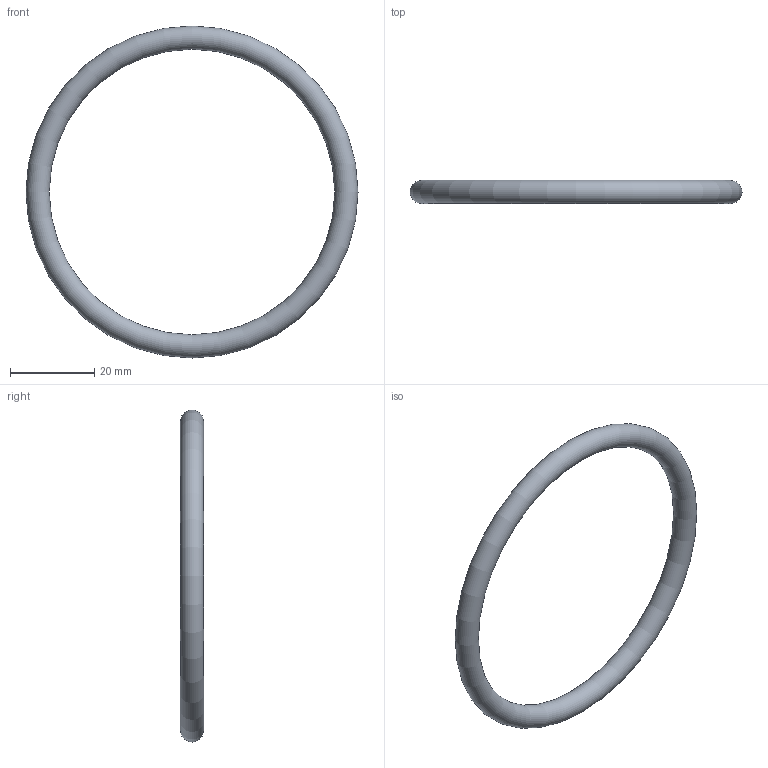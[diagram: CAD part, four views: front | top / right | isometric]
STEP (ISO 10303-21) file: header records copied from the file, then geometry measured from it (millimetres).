
FILE_DESCRIPTION(('STEP AP242 Edition 2','STEP AP242 Edition 2''CAx-IF Rec.Pracs.---Representation and Presentation of Product Manufacturing Information (PMI)---4.0---2014-10-13','STEP AP242 Edition 2''CAx-IF Rec.Pracs.---Representation and Presentation of Product Manufacturing Information (PMI)---4.0---2014-10-13''CAx-IF Rec.Pracs.---3D Tessellated Geometry---0.4---2014-09-14','STEP AP242 Edition 2''CAx-IF Rec.Pracs.---Representation and Presentation of Product Manufacturing Information (PMI)---4.0---2014-10-13''CAx-IF Rec.Pracs.---3D Tessellated Geometry---0.4---2014-09-14''2;1','STEP AP242 Edition 2''CAx-IF Rec.Pracs.---Representation and Presentation of Product Manufacturing Information (PMI)---4.0---2014-10-13''CAx-IF Rec.Pracs.---3D Tessellated Geometry---0.4---2014-09-14''2;1''CAx-IF Rec.Pracs.---User Defined Attributes---1.5---2016-08-15'),'2;1');
FILE_NAME('/vol/tmp/translate-14135826071658713170/ottowheel 29 09 23 2023-09-20 08_15_07 - oring.step','2026-03-09T13:42:07',(''),(''),'ST-DEVELOPER v20','ONSHAPE BY PTC INC, 1.211',' ');
FILE_SCHEMA(('AP242_MANAGED_MODEL_BASED_3D_ENGINEERING_MIM_LF { 1 0 10303 442 3 1 4 }'));
Length unit declared in the file: metre
Products named in the file (1): oring
Bounding box: 78.71 x 5.5 x 78.71 mm (x, y, z)
Volume: 5464.6 mm3; surface area: 3974.3 mm2
Topology: 1 solids, 1 shells, 1 faces, 2 edges, 1 vertices
Faces by surface type: torus 1
Entity records: 40 total; most frequent: DIRECTION 4, CARTESIAN_POINT 3, AXIS2_PLACEMENT_3D 2, SHAPE_REPRESENTATION_RELATIONSHIP 1, ADVANCED_BREP_SHAPE_REPRESENTATION 1, VERTEX_POINT 1, VERTEX_LOOP 1, FACE_BOUND 1
